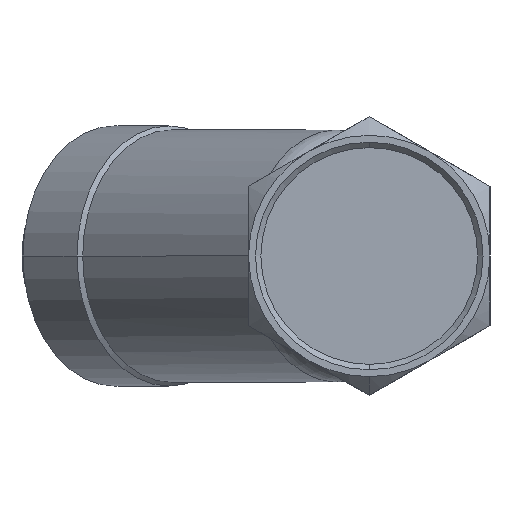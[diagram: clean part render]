
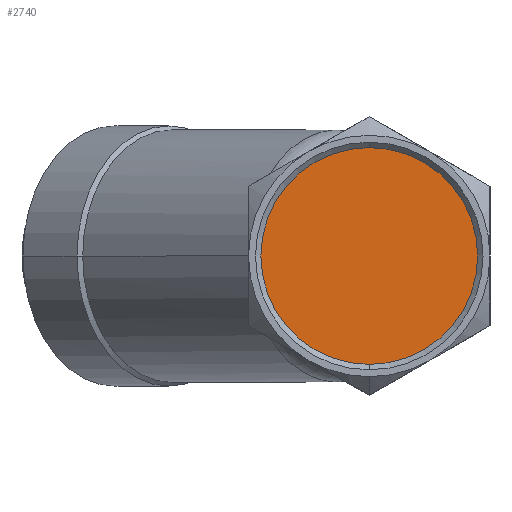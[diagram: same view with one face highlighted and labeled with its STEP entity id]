
A CAD part, left-side view. The second image highlights one B-rep face of the part: STEP entity #2740.
In plain terms, the highlighted planar face has unit normal (-1, 0, 0).
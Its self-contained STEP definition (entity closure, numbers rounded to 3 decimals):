
#71 = ORIENTED_EDGE ( 'NONE', *, *, #1444, .T. ) ;
#213 = CARTESIAN_POINT ( 'NONE',  ( -31.5, 20.21, 0. ) ) ;
#246 = CARTESIAN_POINT ( 'NONE',  ( -31.5, 0., 0. ) ) ;
#292 = ORIENTED_EDGE ( 'NONE', *, *, #3430, .T. ) ;
#501 = AXIS2_PLACEMENT_3D ( 'NONE', #213, #3504, #3503 ) ;
#906 = EDGE_LOOP ( 'NONE', ( #292, #71 ) ) ;
#1185 = CARTESIAN_POINT ( 'NONE',  ( -31.5, 0., 20.21 ) ) ;
#1432 = VERTEX_POINT ( 'NONE', #1185 ) ;
#1444 = EDGE_CURVE ( 'NONE', #1482, #1432, #3488, .T. ) ;
#1482 = VERTEX_POINT ( 'NONE', #3286 ) ;
#1535 = DIRECTION ( 'NONE',  ( -1., 0., 0. ) ) ;
#1688 = AXIS2_PLACEMENT_3D ( 'NONE', #246, #3312, #3287 ) ;
#2740 = ADVANCED_FACE ( 'NONE', ( #3771 ), #3728, .T. ) ;
#3286 = CARTESIAN_POINT ( 'NONE',  ( -31.5, 0., -20.21 ) ) ;
#3287 = DIRECTION ( 'NONE',  ( 0., 0., 1. ) ) ;
#3299 = CARTESIAN_POINT ( 'NONE',  ( -31.5, 0., 0. ) ) ;
#3312 = DIRECTION ( 'NONE',  ( -1., 0., 0. ) ) ;
#3430 = EDGE_CURVE ( 'NONE', #1432, #1482, #3486, .T. ) ;
#3453 = AXIS2_PLACEMENT_3D ( 'NONE', #3299, #1535, #3610 ) ;
#3486 = CIRCLE ( 'NONE', #3453, 20.21 ) ;
#3488 = CIRCLE ( 'NONE', #1688, 20.21 ) ;
#3503 = DIRECTION ( 'NONE',  ( 0., 0., 1. ) ) ;
#3504 = DIRECTION ( 'NONE',  ( -1., 0., 0. ) ) ;
#3610 = DIRECTION ( 'NONE',  ( 0., 0., 1. ) ) ;
#3728 = PLANE ( 'NONE',  #501 ) ;
#3771 = FACE_OUTER_BOUND ( 'NONE', #906, .T. ) ;
